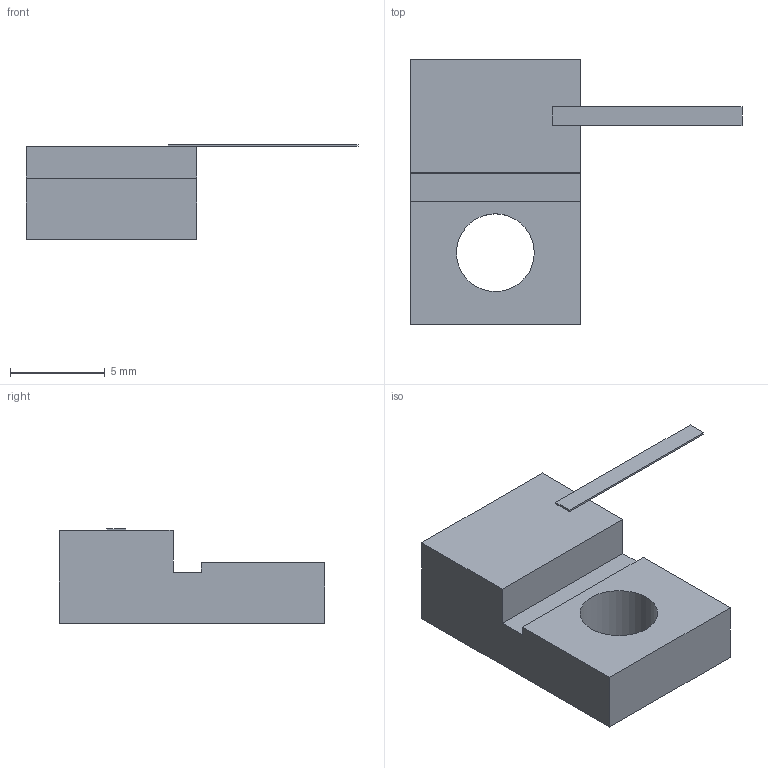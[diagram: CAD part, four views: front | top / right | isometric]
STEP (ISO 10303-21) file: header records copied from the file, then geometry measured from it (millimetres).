
FILE_DESCRIPTION(('STEP AP203'), '1');
FILE_NAME('Ð1-87-75-1', '', ('UNSPECIFIED'), ('UNSPECIFIED'), 'ASCON STEP Converter 1.6', 'ASCON Math Kernel', '');
FILE_SCHEMA(('CONFIG_CONTROL_DESIGN'));
Length unit declared in the file: millimetre
Bounding box: 17.5 x 14 x 5 mm (x, y, z)
Volume: 447 mm3; surface area: 529.7 mm2
Topology: 1 solids, 2 shells, 36 faces, 94 edges, 62 vertices
Faces by surface type: plane 31, cylinder 5
Full cylindrical faces by diameter (mm): 4.1 x1
Entity records: 1425 total; most frequent: CARTESIAN_POINT 192, ORIENTED_EDGE 186, DIRECTION 177, EDGE_CURVE 93, LINE 83, VECTOR 83, VERTEX_POINT 62, AXIS2_PLACEMENT_3D 47
